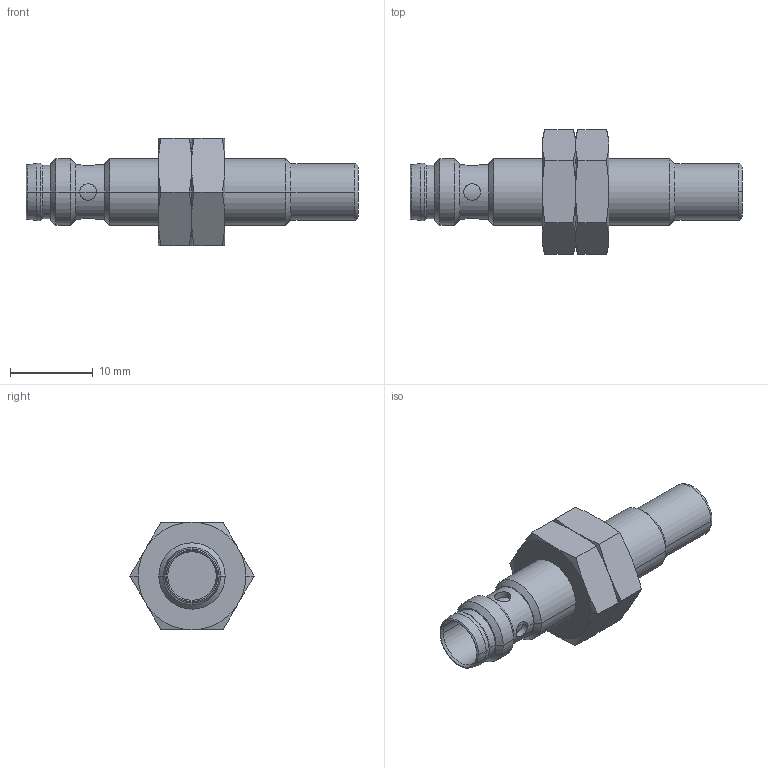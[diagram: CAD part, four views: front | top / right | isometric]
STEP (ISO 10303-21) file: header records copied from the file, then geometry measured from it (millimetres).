
FILE_DESCRIPTION( ( '' ), '1' );
FILE_NAME( '//partserver001.servicenet/client_exchange/iodir/jobs/output/wkb12391438_no0/STEP/ie5350_2_03.stp', '2008-10-06T09:29:14', ( '' ), ( '' ), ' ', ' ', ' ' );
FILE_SCHEMA( ( 'CONFIG_CONTROL_DESIGN' ) );
Length unit declared in the file: millimetre
Products named in the file (3): 1; 2; 3
Bounding box: 40.1 x 15.01 x 13 mm (x, y, z)
Volume: 2491.7 mm3; surface area: 2078.8 mm2
Topology: 3 solids, 3 shells, 113 faces, 246 edges, 146 vertices
Faces by surface type: cone 54, cylinder 32, plane 23, torus 4
Entity records: 3374 total; most frequent: CARTESIAN_POINT 884, DIRECTION 508, ORIENTED_EDGE 492, EDGE_CURVE 246, AXIS2_PLACEMENT_3D 218, VERTEX_POINT 146, EDGE_LOOP 124, ADVANCED_FACE 113
